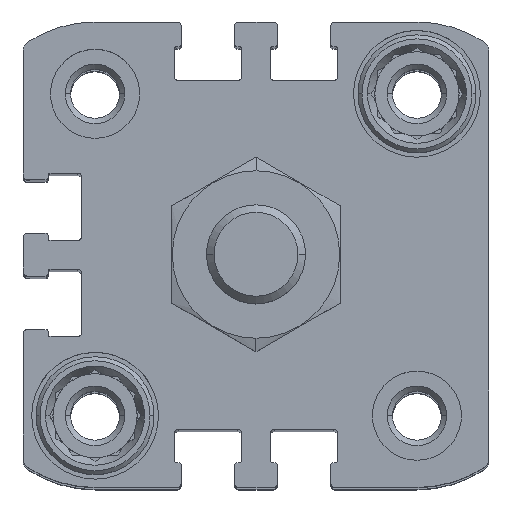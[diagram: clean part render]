
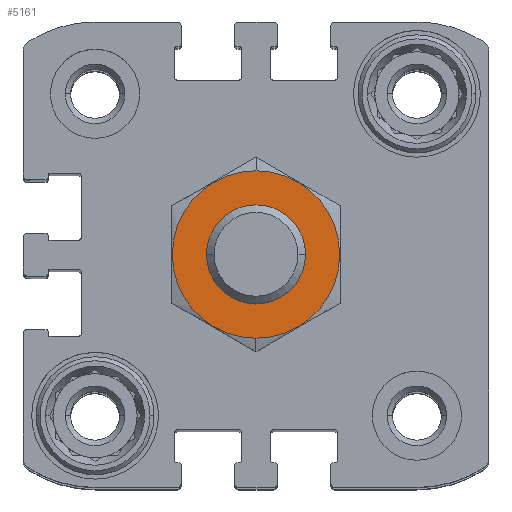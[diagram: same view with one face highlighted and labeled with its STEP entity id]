
A CAD part, top view. The second image highlights one B-rep face of the part: STEP entity #5161.
In plain terms, the highlighted planar face has unit normal (0, 0, 1) as drawn and (0, 1, 0) by its records, which use the part's own axes.
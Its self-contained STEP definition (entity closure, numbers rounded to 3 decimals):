
#1313 = VERTEX_POINT ( 'NONE', #7937 ) ;
#1523 = DIRECTION ( 'NONE',  ( 0., 1., 0. ) ) ;
#1736 = AXIS2_PLACEMENT_3D ( 'NONE', #9124, #1523, #10389 ) ;
#1822 = FACE_OUTER_BOUND ( 'NONE', #10351, .T. ) ;
#1905 = ORIENTED_EDGE ( 'NONE', *, *, #9411, .F. ) ;
#2133 = CARTESIAN_POINT ( 'NONE',  ( 0., 0., 0. ) ) ;
#2285 = AXIS2_PLACEMENT_3D ( 'NONE', #11033, #3478, #12246 ) ;
#2541 = ORIENTED_EDGE ( 'NONE', *, *, #9113, .F. ) ;
#2655 = CIRCLE ( 'NONE', #1736, 5. ) ;
#3414 = DIRECTION ( 'NONE',  ( 0., 0., -1. ) ) ;
#3478 = DIRECTION ( 'NONE',  ( 0., 1., 0. ) ) ;
#4200 = CARTESIAN_POINT ( 'NONE',  ( 0., 0., 8.45 ) ) ;
#4518 = ORIENTED_EDGE ( 'NONE', *, *, #4850, .F. ) ;
#4850 = EDGE_CURVE ( 'NONE', #5378, #1313, #12455, .T. ) ;
#5042 = CIRCLE ( 'NONE', #2285, 5. ) ;
#5161 = ADVANCED_FACE ( 'NONE', ( #9353, #1822 ), #8279, .F. ) ;
#5378 = VERTEX_POINT ( 'NONE', #4200 ) ;
#6574 = VERTEX_POINT ( 'NONE', #12872 ) ;
#7286 = EDGE_LOOP ( 'NONE', ( #1905, #2541 ) ) ;
#7937 = CARTESIAN_POINT ( 'NONE',  ( 0., 0., -8.45 ) ) ;
#8212 = DIRECTION ( 'NONE',  ( 0., 0., -1. ) ) ;
#8231 = DIRECTION ( 'NONE',  ( 0., -1., 0. ) ) ;
#8279 = PLANE ( 'NONE',  #14968 ) ;
#8373 = CARTESIAN_POINT ( 'NONE',  ( 0., 0., 0. ) ) ;
#9113 = EDGE_CURVE ( 'NONE', #12647, #6574, #2655, .T. ) ;
#9124 = CARTESIAN_POINT ( 'NONE',  ( 0., 0., 0. ) ) ;
#9353 = FACE_BOUND ( 'NONE', #7286, .T. ) ;
#9411 = EDGE_CURVE ( 'NONE', #6574, #12647, #5042, .T. ) ;
#10351 = EDGE_LOOP ( 'NONE', ( #11047, #4518 ) ) ;
#10389 = DIRECTION ( 'NONE',  ( 0., 0., 1. ) ) ;
#10652 = AXIS2_PLACEMENT_3D ( 'NONE', #2133, #10973, #3414 ) ;
#10973 = DIRECTION ( 'NONE',  ( 0., -1., 0. ) ) ;
#11033 = CARTESIAN_POINT ( 'NONE',  ( 0., 0., 0. ) ) ;
#11047 = ORIENTED_EDGE ( 'NONE', *, *, #13345, .F. ) ;
#12246 = DIRECTION ( 'NONE',  ( 0., 0., 1. ) ) ;
#12455 = CIRCLE ( 'NONE', #15573, 8.45 ) ;
#12647 = VERTEX_POINT ( 'NONE', #13022 ) ;
#12872 = CARTESIAN_POINT ( 'NONE',  ( 0., 0., 5. ) ) ;
#13022 = CARTESIAN_POINT ( 'NONE',  ( 0., 0., -5. ) ) ;
#13345 = EDGE_CURVE ( 'NONE', #1313, #5378, #15018, .T. ) ;
#14238 = DIRECTION ( 'NONE',  ( 0., 0., -1. ) ) ;
#14273 = DIRECTION ( 'NONE',  ( 0., -1., 0. ) ) ;
#14344 = CARTESIAN_POINT ( 'NONE',  ( 0., 0., 0. ) ) ;
#14968 = AXIS2_PLACEMENT_3D ( 'NONE', #8373, #8231, #8212 ) ;
#15018 = CIRCLE ( 'NONE', #10652, 8.45 ) ;
#15573 = AXIS2_PLACEMENT_3D ( 'NONE', #14344, #14273, #14238 ) ;
